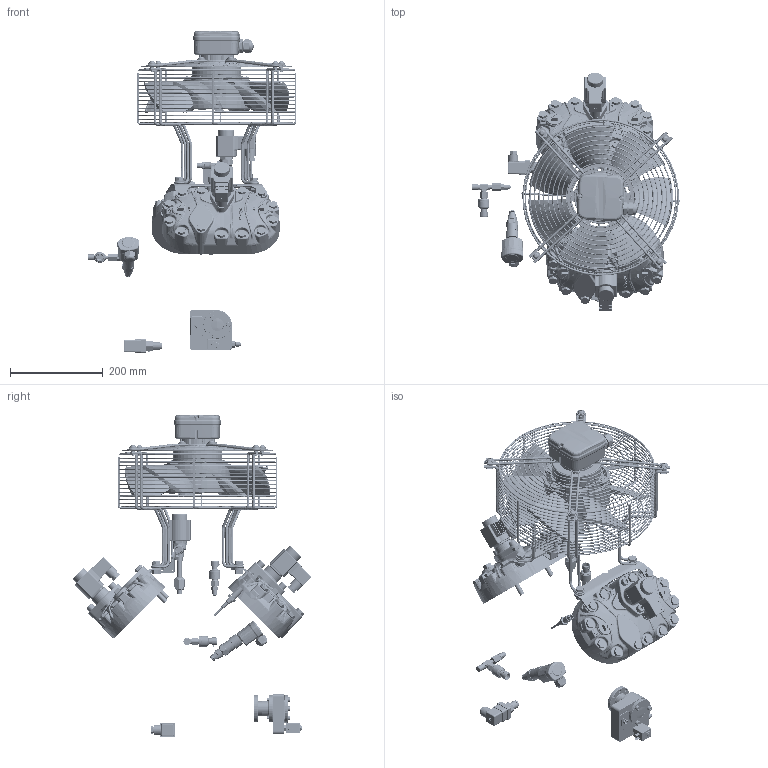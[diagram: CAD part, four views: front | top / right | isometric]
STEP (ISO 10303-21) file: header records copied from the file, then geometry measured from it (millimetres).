
FILE_DESCRIPTION(/* description */ (''),/* implementation_level */ '2;1');
FILE_NAME(/* name */ '4JE-4HE-4GE-4FE-OPTION.stp',/* time_stamp */ '2023-12-08T15:48:36+01:00',/* author */ (''),/* organization */ (''),/* preprocessor_version */ 'ST-DEVELOPER v19.3',/* originating_system */ 'SIEMENS PLM Software NX2212.3001',/* authorisation */ '');
FILE_SCHEMA (('AUTOMOTIVE_DESIGN { 1 0 10303 214 3 1 1 1 }'));
Products named in the file (9): FAN-4JE-4FE; OIL-PRESS-CUT-OUT-DELTAP-2; PRESSURE-TEMPERATURE-SENSOR; OIL-LEVEL-MONITRG-ADPTR-OLM-IQ; SOLENOID-VALVE-F-CIC; CYLINDER-HEAD-A-CR-BE5-KPL; CYLINDER-HEAD-W-CYL-4J-6F; CRANKCASE-HEATER-24V-140W-UL; 4JE-4HE-4GE-4FE-OPTION
Assembly tree (10 placements, depth 2):
  4JE-4HE-4GE-4FE-OPTION
    CRANKCASE-HEATER-24V-140W-UL
    CYLINDER-HEAD-W-CYL-4J-6F  x2
    CYLINDER-HEAD-A-CR-BE5-KPL  x2
    SOLENOID-VALVE-F-CIC
    OIL-LEVEL-MONITRG-ADPTR-OLM-IQ
    PRESSURE-TEMPERATURE-SENSOR
    OIL-PRESS-CUT-OUT-DELTAP-2
    FAN-4JE-4FE
Bounding box: 449.67 x 514.18 x 695.39 mm (x, y, z)
Volume: 12300558.2 mm3; surface area: 1996998.8 mm2
Topology: 45 solids, 56 shells, 14814 faces, 38244 edges, 22410 vertices
Faces by surface type: bspline 5273, plane 3090, cylinder 2717, torus 1414, cone 1253, sphere 579, extrusion 488
Full cylindrical faces by diameter (mm): 1 x4, 1.5 x4, 1.8 x3, 2.5 x1, 3.2 x1, 4 x1, 4.9 x1, 5 x1, 5.795 x1, 6 x4, 6.6 x1, 6.8 x1, 6.9 x3, 7 x5, 7.04 x1, 7.5 x1, 7.9 x2, 8 x4, 8.4 x1, 8.5 x4, 8.782 x4, 8.9 x2, 9 x2, 9.5 x4, 9.8 x1, 10 x13, 10.2 x1, 10.287 x2, 10.29 x1, 10.4 x1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
Entity records: 561783 total; most frequent: CARTESIAN_POINT 317175, ORIENTED_EDGE 52350, DIRECTION 39075, EDGE_CURVE 26175, AXIS2_PLACEMENT_3D 16027, VERTEX_POINT 15987, EDGE_LOOP 11623, B_SPLINE_CURVE_WITH_KNOTS 10205
